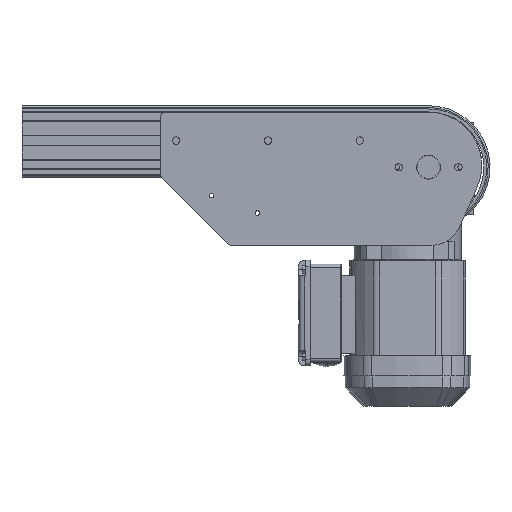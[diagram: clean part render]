
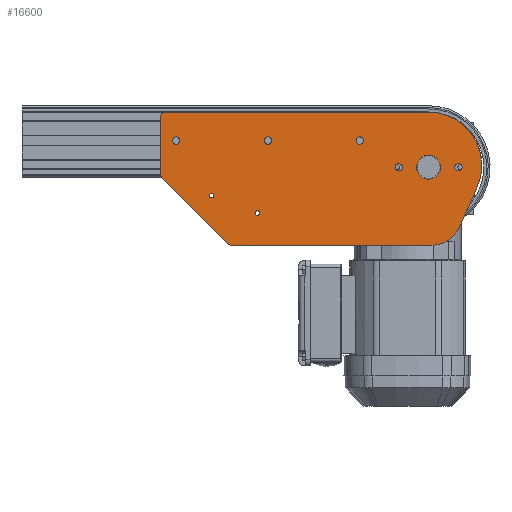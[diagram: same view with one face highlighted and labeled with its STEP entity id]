
A CAD part, front view. The second image highlights one B-rep face of the part: STEP entity #16600.
In plain terms, the highlighted planar face has unit normal (0, -1, 0).
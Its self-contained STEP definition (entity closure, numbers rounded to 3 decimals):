
#15945=CARTESIAN_POINT('',(-54.,-38.0,-67.));
#15946=VERTEX_POINT('',#15945);
#15947=CARTESIAN_POINT('',(-67.,-38.0,-67.));
#15948=DIRECTION('',(0.0,1.0,0.0));
#15949=DIRECTION('',(-1.0,0.0,0.0));
#15950=AXIS2_PLACEMENT_3D('',#15947,#15948,#15949);
#15951=CIRCLE('',#15950,13.0);
#15952=EDGE_CURVE('',#15946,#15946,#15951,.T.);
#15965=CARTESIAN_POINT('',(-95.5,-38.0,-67.));
#15966=VERTEX_POINT('',#15965);
#15967=CARTESIAN_POINT('',(-99.5,-38.0,-67.));
#15968=DIRECTION('',(0.0,1.0,0.0));
#15969=DIRECTION('',(-1.0,0.0,0.0));
#15970=AXIS2_PLACEMENT_3D('',#15967,#15968,#15969);
#15971=CIRCLE('',#15970,4.0);
#15972=EDGE_CURVE('',#15966,#15966,#15971,.T.);
#15985=CARTESIAN_POINT('',(-30.5,-38.0,-67.));
#15986=VERTEX_POINT('',#15985);
#15987=CARTESIAN_POINT('',(-34.5,-38.0,-67.));
#15988=DIRECTION('',(0.0,1.0,0.0));
#15989=DIRECTION('',(-1.0,0.0,0.0));
#15990=AXIS2_PLACEMENT_3D('',#15987,#15988,#15989);
#15991=CIRCLE('',#15990,4.0);
#15992=EDGE_CURVE('',#15986,#15986,#15991,.T.);
#16013=CARTESIAN_POINT('',(-338.,-38.0,-38.));
#16014=VERTEX_POINT('',#16013);
#16015=CARTESIAN_POINT('',(-342.,-38.0,-38.));
#16016=DIRECTION('',(0.0,1.0,0.0));
#16017=DIRECTION('',(-1.0,0.0,0.0));
#16018=AXIS2_PLACEMENT_3D('',#16015,#16016,#16017);
#16019=CIRCLE('',#16018,4.0);
#16020=EDGE_CURVE('',#16014,#16014,#16019,.T.);
#16041=CARTESIAN_POINT('',(-238.,-38.0,-38.));
#16042=VERTEX_POINT('',#16041);
#16043=CARTESIAN_POINT('',(-242.,-38.0,-38.));
#16044=DIRECTION('',(0.0,1.0,0.0));
#16045=DIRECTION('',(-1.0,0.0,0.0));
#16046=AXIS2_PLACEMENT_3D('',#16043,#16044,#16045);
#16047=CIRCLE('',#16046,4.0);
#16048=EDGE_CURVE('',#16042,#16042,#16047,.T.);
#16069=CARTESIAN_POINT('',(-138.,-38.0,-38.));
#16070=VERTEX_POINT('',#16069);
#16071=CARTESIAN_POINT('',(-142.,-38.0,-38.));
#16072=DIRECTION('',(0.0,1.0,0.0));
#16073=DIRECTION('',(-1.0,0.0,0.0));
#16074=AXIS2_PLACEMENT_3D('',#16071,#16072,#16073);
#16075=CIRCLE('',#16074,4.0);
#16076=EDGE_CURVE('',#16070,#16070,#16075,.T.);
#16089=CARTESIAN_POINT('',(-251.,-38.,-117.));
#16090=VERTEX_POINT('',#16089);
#16091=CARTESIAN_POINT('',(-253.5,-38.0,-117.));
#16092=DIRECTION('',(0.0,1.0,0.0));
#16093=DIRECTION('',(-1.0,0.0,0.0));
#16094=AXIS2_PLACEMENT_3D('',#16091,#16092,#16093);
#16095=CIRCLE('',#16094,2.5);
#16096=EDGE_CURVE('',#16090,#16090,#16095,.T.);
#16109=CARTESIAN_POINT('',(-301.,-38.,-98.));
#16110=VERTEX_POINT('',#16109);
#16111=CARTESIAN_POINT('',(-303.5,-38.0,-98.));
#16112=DIRECTION('',(0.0,1.0,0.0));
#16113=DIRECTION('',(-1.0,0.0,0.0));
#16114=AXIS2_PLACEMENT_3D('',#16111,#16112,#16113);
#16115=CIRCLE('',#16114,2.5);
#16116=EDGE_CURVE('',#16110,#16110,#16115,.T.);
#16262=CARTESIAN_POINT('',(-359.0,-38.0,-74.79));
#16263=VERTEX_POINT('',#16262);
#16270=CARTESIAN_POINT('',(-359.,-38.0,-12.));
#16271=VERTEX_POINT('',#16270);
#16272=CARTESIAN_POINT('',(-359.0,-38.0,-74.79));
#16273=DIRECTION('',(0.0,0.0,1.0));
#16274=VECTOR('',#16273,62.79);
#16275=LINE('',#16272,#16274);
#16276=EDGE_CURVE('',#16263,#16271,#16275,.T.);
#16335=CARTESIAN_POINT('',(-354.,-38.0,-7.));
#16336=VERTEX_POINT('',#16335);
#16337=CARTESIAN_POINT('',(-354.,-38.0,-12.));
#16338=DIRECTION('',(0.0,1.0,0.0));
#16339=DIRECTION('',(-1.0,0.0,0.0));
#16340=AXIS2_PLACEMENT_3D('',#16337,#16338,#16339);
#16341=CIRCLE('',#16340,5.0);
#16342=EDGE_CURVE('',#16271,#16336,#16341,.T.);
#16359=CARTESIAN_POINT('',(-357.541,-38.0,-78.32));
#16360=VERTEX_POINT('',#16359);
#16367=CARTESIAN_POINT('',(-354.,-38.0,-74.79));
#16368=DIRECTION('',(0.0,1.0,0.0));
#16369=DIRECTION('',(-1.0,0.0,0.0));
#16370=AXIS2_PLACEMENT_3D('',#16367,#16368,#16369);
#16371=CIRCLE('',#16370,5.0);
#16372=EDGE_CURVE('',#16360,#16263,#16371,.T.);
#16384=CARTESIAN_POINT('',(-285.557,-38.0,-150.53));
#16385=VERTEX_POINT('',#16384);
#16392=CARTESIAN_POINT('',(-285.557,-38.0,-150.53));
#16393=DIRECTION('',(-0.706,0.0,0.708));
#16394=VECTOR('',#16393,101.961);
#16395=LINE('',#16392,#16394);
#16396=EDGE_CURVE('',#16385,#16360,#16395,.T.);
#16408=CARTESIAN_POINT('',(-282.016,-38.0,-152.));
#16409=VERTEX_POINT('',#16408);
#16416=CARTESIAN_POINT('',(-282.016,-38.0,-147.));
#16417=DIRECTION('',(0.0,1.0,0.0));
#16418=DIRECTION('',(-1.0,0.0,0.0));
#16419=AXIS2_PLACEMENT_3D('',#16416,#16417,#16418);
#16420=CIRCLE('',#16419,5.0);
#16421=EDGE_CURVE('',#16409,#16385,#16420,.T.);
#16433=CARTESIAN_POINT('',(-63.3,-38.0,-152.));
#16434=VERTEX_POINT('',#16433);
#16441=CARTESIAN_POINT('',(-63.3,-38.0,-152.));
#16442=DIRECTION('',(-1.0,0.0,0.0));
#16443=VECTOR('',#16442,218.716);
#16444=LINE('',#16441,#16443);
#16445=EDGE_CURVE('',#16434,#16409,#16444,.T.);
#16457=CARTESIAN_POINT('',(-33.597,-38.0,-132.69));
#16458=VERTEX_POINT('',#16457);
#16465=CARTESIAN_POINT('',(-63.3,-38.0,-119.5));
#16466=DIRECTION('',(0.0,1.0,0.0));
#16467=DIRECTION('',(-1.0,0.0,0.0));
#16468=AXIS2_PLACEMENT_3D('',#16465,#16466,#16467);
#16469=CIRCLE('',#16468,32.5);
#16470=EDGE_CURVE('',#16458,#16434,#16469,.T.);
#16482=CARTESIAN_POINT('',(-13.991,-38.0,-88.539));
#16483=VERTEX_POINT('',#16482);
#16490=CARTESIAN_POINT('',(-13.991,-38.0,-88.539));
#16491=DIRECTION('',(-0.406,0.0,-0.914));
#16492=VECTOR('',#16491,48.308);
#16493=LINE('',#16490,#16492);
#16494=EDGE_CURVE('',#16483,#16458,#16493,.T.);
#16515=CARTESIAN_POINT('',(-67.,-38.0,-7.));
#16516=VERTEX_POINT('',#16515);
#16523=CARTESIAN_POINT('',(-67.,-38.0,-65.));
#16524=DIRECTION('',(0.0,1.0,0.0));
#16525=DIRECTION('',(-1.0,0.0,0.0));
#16526=AXIS2_PLACEMENT_3D('',#16523,#16524,#16525);
#16527=CIRCLE('',#16526,58.);
#16528=EDGE_CURVE('',#16516,#16483,#16527,.T.);
#16549=CARTESIAN_POINT('',(-354.,-38.0,-7.));
#16550=DIRECTION('',(1.0,0.0,0.0));
#16551=VECTOR('',#16550,287.0);
#16552=LINE('',#16549,#16551);
#16553=EDGE_CURVE('',#16336,#16516,#16552,.T.);
#16559=CARTESIAN_POINT('',(-215.937,-38.0,-84.786));
#16560=DIRECTION('',(0.0,1.0,0.0));
#16561=DIRECTION('',(-1.0,0.0,0.0));
#16562=AXIS2_PLACEMENT_3D('',#16559,#16560,#16561);
#16563=PLANE('',#16562);
#16564=ORIENTED_EDGE('',*,*,#16553,.F.);
#16565=ORIENTED_EDGE('',*,*,#16342,.F.);
#16566=ORIENTED_EDGE('',*,*,#16276,.F.);
#16567=ORIENTED_EDGE('',*,*,#16372,.F.);
#16568=ORIENTED_EDGE('',*,*,#16396,.F.);
#16569=ORIENTED_EDGE('',*,*,#16421,.F.);
#16570=ORIENTED_EDGE('',*,*,#16445,.F.);
#16571=ORIENTED_EDGE('',*,*,#16470,.F.);
#16572=ORIENTED_EDGE('',*,*,#16494,.F.);
#16573=ORIENTED_EDGE('',*,*,#16528,.F.);
#16574=EDGE_LOOP('',(#16564,#16565,#16566,#16567,#16568,#16569,#16570,#16571,#16572,#16573));
#16575=FACE_OUTER_BOUND('',#16574,.T.);
#16576=ORIENTED_EDGE('',*,*,#16116,.T.);
#16577=EDGE_LOOP('',(#16576));
#16578=FACE_BOUND('',#16577,.T.);
#16579=ORIENTED_EDGE('',*,*,#16096,.T.);
#16580=EDGE_LOOP('',(#16579));
#16581=FACE_BOUND('',#16580,.T.);
#16582=ORIENTED_EDGE('',*,*,#16076,.T.);
#16583=EDGE_LOOP('',(#16582));
#16584=FACE_BOUND('',#16583,.T.);
#16585=ORIENTED_EDGE('',*,*,#16048,.T.);
#16586=EDGE_LOOP('',(#16585));
#16587=FACE_BOUND('',#16586,.T.);
#16588=ORIENTED_EDGE('',*,*,#16020,.T.);
#16589=EDGE_LOOP('',(#16588));
#16590=FACE_BOUND('',#16589,.T.);
#16591=ORIENTED_EDGE('',*,*,#15992,.T.);
#16592=EDGE_LOOP('',(#16591));
#16593=FACE_BOUND('',#16592,.T.);
#16594=ORIENTED_EDGE('',*,*,#15972,.T.);
#16595=EDGE_LOOP('',(#16594));
#16596=FACE_BOUND('',#16595,.T.);
#16597=ORIENTED_EDGE('',*,*,#15952,.T.);
#16598=EDGE_LOOP('',(#16597));
#16599=FACE_BOUND('',#16598,.T.);
#16600=ADVANCED_FACE('',(#16575,#16578,#16581,#16584,#16587,#16590,#16593,#16596,#16599),#16563,.F.);
